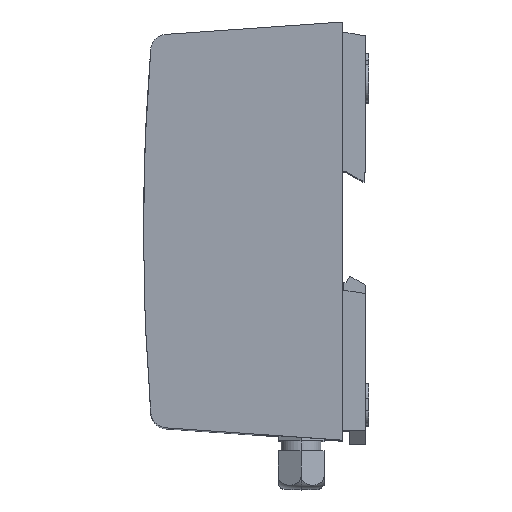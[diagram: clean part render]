
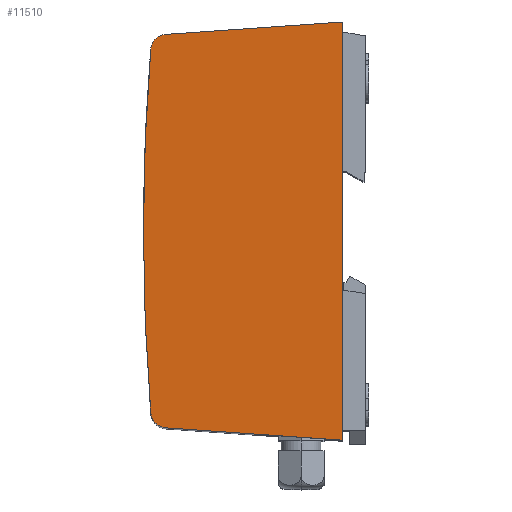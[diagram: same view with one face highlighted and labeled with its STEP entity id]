
A CAD part, top view. The second image highlights one B-rep face of the part: STEP entity #11510.
In plain terms, the highlighted planar face has unit normal (-0.07, 0, 0.998).
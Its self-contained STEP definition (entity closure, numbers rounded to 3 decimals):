
#548 = CARTESIAN_POINT ( 'NONE',  ( -59.711, -62.383, 101.708 ) ) ;
#947 = CARTESIAN_POINT ( 'NONE',  ( -57.66, 55.15, 101.851 ) ) ;
#1135 = VERTEX_POINT ( 'NONE', #8561 ) ;
#1240 = CARTESIAN_POINT ( 'NONE',  ( -57.66, -66.786, 101.851 ) ) ;
#1478 = VERTEX_POINT ( 'NONE', #8137 ) ;
#1538 = EDGE_CURVE ( 'NONE', #1135, #3971, #4013, .T. ) ;
#1890 = CARTESIAN_POINT ( 'NONE',  ( 0., -120., 105.883 ) ) ;
#1925 = ORIENTED_EDGE ( 'NONE', *, *, #12168, .F. ) ;
#2605 = FACE_OUTER_BOUND ( 'NONE', #10728, .T. ) ;
#2711 = CARTESIAN_POINT ( 'NONE',  ( -59.711, -62.383, 101.708 ) ) ;
#3163 = ORIENTED_EDGE ( 'NONE', *, *, #13425, .T. ) ;
#3361 = CARTESIAN_POINT ( 'NONE',  ( -61.237, -43.564, 101.601 ) ) ;
#3409 = DIRECTION ( 'NONE',  ( -0.998, 0., -0.07 ) ) ;
#3425 = CARTESIAN_POINT ( 'NONE',  ( -62., -24.699, 101.548 ) ) ;
#3614 = CARTESIAN_POINT ( 'NONE',  ( -61.237, 31.928, 101.601 ) ) ;
#3645 = VECTOR ( 'NONE', #7620, 1000. ) ;
#3724 = VERTEX_POINT ( 'NONE', #18170 ) ;
#3833 = CARTESIAN_POINT ( 'NONE',  ( -59.711, 50.747, 101.708 ) ) ;
#3971 = VERTEX_POINT ( 'NONE', #17211 ) ;
#4013 = LINE ( 'NONE', #16023, #6517 ) ;
#4170 = EDGE_CURVE ( 'NONE', #18620, #9151, #15788, .T. ) ;
#5046 = VECTOR ( 'NONE', #12608, 1000. ) ;
#6517 = VECTOR ( 'NONE', #8863, 1000. ) ;
#6746 = EDGE_CURVE ( 'NONE', #1478, #14204, #12564, .T. ) ;
#6828 = EDGE_CURVE ( 'NONE', #14204, #18620, #9123, .T. ) ;
#7111 = ORIENTED_EDGE ( 'NONE', *, *, #6828, .F. ) ;
#7514 = AXIS2_PLACEMENT_3D ( 'NONE', #10592, #12037, #3409 ) ;
#7620 = DIRECTION ( 'NONE',  ( 0., 1., 0. ) ) ;
#7706 = PLANE ( 'NONE',  #7514 ) ;
#7908 = CARTESIAN_POINT ( 'NONE',  ( -62., -5.818, 101.548 ) ) ;
#7965 = ORIENTED_EDGE ( 'NONE', *, *, #12213, .F. ) ;
#8137 = CARTESIAN_POINT ( 'NONE',  ( -59.711, -62.383, 101.708 ) ) ;
#8561 = CARTESIAN_POINT ( 'NONE',  ( 0., -70.818, 105.883 ) ) ;
#8863 = DIRECTION ( 'NONE',  ( -0.995, 0.07, -0.07 ) ) ;
#8920 = CARTESIAN_POINT ( 'NONE',  ( -59.711, 50.747, 101.708 ) ) ;
#9039 = ORIENTED_EDGE ( 'NONE', *, *, #4170, .F. ) ;
#9123 =( BOUNDED_CURVE ( )  B_SPLINE_CURVE ( 3, ( #7908, #9240, #3614, #13684 ),
 .UNSPECIFIED., .F., .F. ) 
 B_SPLINE_CURVE_WITH_KNOTS ( ( 4, 4 ),
 ( 0., 0.081 ),
 .UNSPECIFIED. ) 
 CURVE ( )  GEOMETRIC_REPRESENTATION_ITEM ( )  RATIONAL_B_SPLINE_CURVE ( ( 1., 0.999, 0.999, 1. ) ) 
 REPRESENTATION_ITEM ( '' )  );
#9151 = VERTEX_POINT ( 'NONE', #16690 ) ;
#9240 = CARTESIAN_POINT ( 'NONE',  ( -62., 13.063, 101.548 ) ) ;
#9868 = CARTESIAN_POINT ( 'NONE',  ( -55.076, -66.967, 102.032 ) ) ;
#10592 = CARTESIAN_POINT ( 'NONE',  ( -62., -120., 101.548 ) ) ;
#10728 = EDGE_LOOP ( 'NONE', ( #3163, #1925, #9039, #7111, #10914, #7965, #13678 ) ) ;
#10914 = ORIENTED_EDGE ( 'NONE', *, *, #6746, .F. ) ;
#11011 = CARTESIAN_POINT ( 'NONE',  ( -59.502, 53.329, 101.723 ) ) ;
#11319 = CARTESIAN_POINT ( 'NONE',  ( -59.502, -64.965, 101.723 ) ) ;
#11510 = ADVANCED_FACE ( 'NONE', ( #2605 ), #7706, .F. ) ;
#12037 = DIRECTION ( 'NONE',  ( 0.07, 0., -0.998 ) ) ;
#12168 = EDGE_CURVE ( 'NONE', #9151, #3724, #16048, .T. ) ;
#12213 = EDGE_CURVE ( 'NONE', #3971, #1478, #17964, .T. ) ;
#12534 = CARTESIAN_POINT ( 'NONE',  ( -62., -5.818, 101.548 ) ) ;
#12564 =( BOUNDED_CURVE ( )  B_SPLINE_CURVE ( 3, ( #548, #3361, #3425, #13486 ),
 .UNSPECIFIED., .F., .F. ) 
 B_SPLINE_CURVE_WITH_KNOTS ( ( 4, 4 ),
 ( 6.202, 6.283 ),
 .UNSPECIFIED. ) 
 CURVE ( )  GEOMETRIC_REPRESENTATION_ITEM ( )  RATIONAL_B_SPLINE_CURVE ( ( 1., 0.999, 0.999, 1. ) ) 
 REPRESENTATION_ITEM ( '' )  );
#12608 = DIRECTION ( 'NONE',  ( 0.995, 0.07, 0.07 ) ) ;
#13425 = EDGE_CURVE ( 'NONE', #1135, #3724, #15134, .T. ) ;
#13486 = CARTESIAN_POINT ( 'NONE',  ( -62., -5.818, 101.548 ) ) ;
#13678 = ORIENTED_EDGE ( 'NONE', *, *, #1538, .F. ) ;
#13684 = CARTESIAN_POINT ( 'NONE',  ( -59.711, 50.747, 101.708 ) ) ;
#13908 = CARTESIAN_POINT ( 'NONE',  ( -55.076, 55.331, 102.032 ) ) ;
#14204 = VERTEX_POINT ( 'NONE', #12534 ) ;
#15134 = LINE ( 'NONE', #1890, #3645 ) ;
#15788 =( BOUNDED_CURVE ( )  B_SPLINE_CURVE ( 3, ( #3833, #11011, #947, #13908 ),
 .UNSPECIFIED., .F., .F. ) 
 B_SPLINE_CURVE_WITH_KNOTS ( ( 4, 4 ),
 ( 0.081, 1.501 ),
 .UNSPECIFIED. ) 
 CURVE ( )  GEOMETRIC_REPRESENTATION_ITEM ( )  RATIONAL_B_SPLINE_CURVE ( ( 1., 0.839, 0.839, 1. ) ) 
 REPRESENTATION_ITEM ( '' )  );
#16023 = CARTESIAN_POINT ( 'NONE',  ( -53.832, -67.054, 102.119 ) ) ;
#16048 = LINE ( 'NONE', #18303, #5046 ) ;
#16690 = CARTESIAN_POINT ( 'NONE',  ( -55.076, 55.331, 102.032 ) ) ;
#17211 = CARTESIAN_POINT ( 'NONE',  ( -55.076, -66.967, 102.032 ) ) ;
#17964 =( BOUNDED_CURVE ( )  B_SPLINE_CURVE ( 3, ( #9868, #1240, #11319, #2711 ),
 .UNSPECIFIED., .F., .F. ) 
 B_SPLINE_CURVE_WITH_KNOTS ( ( 4, 4 ),
 ( 4.782, 6.202 ),
 .UNSPECIFIED. ) 
 CURVE ( )  GEOMETRIC_REPRESENTATION_ITEM ( )  RATIONAL_B_SPLINE_CURVE ( ( 1., 0.839, 0.839, 1. ) ) 
 REPRESENTATION_ITEM ( '' )  );
#18170 = CARTESIAN_POINT ( 'NONE',  ( 0., 59.182, 105.883 ) ) ;
#18303 = CARTESIAN_POINT ( 'NONE',  ( -53.832, 55.418, 102.119 ) ) ;
#18620 = VERTEX_POINT ( 'NONE', #8920 ) ;
